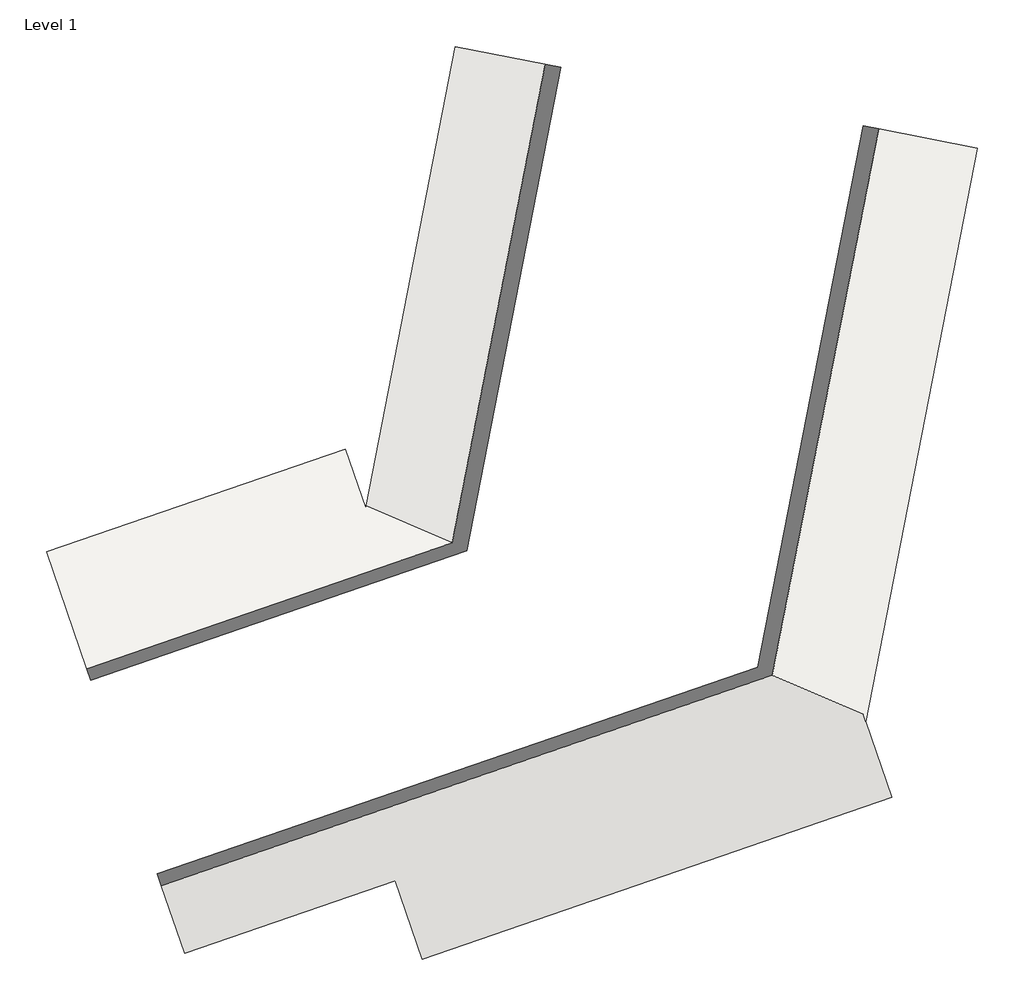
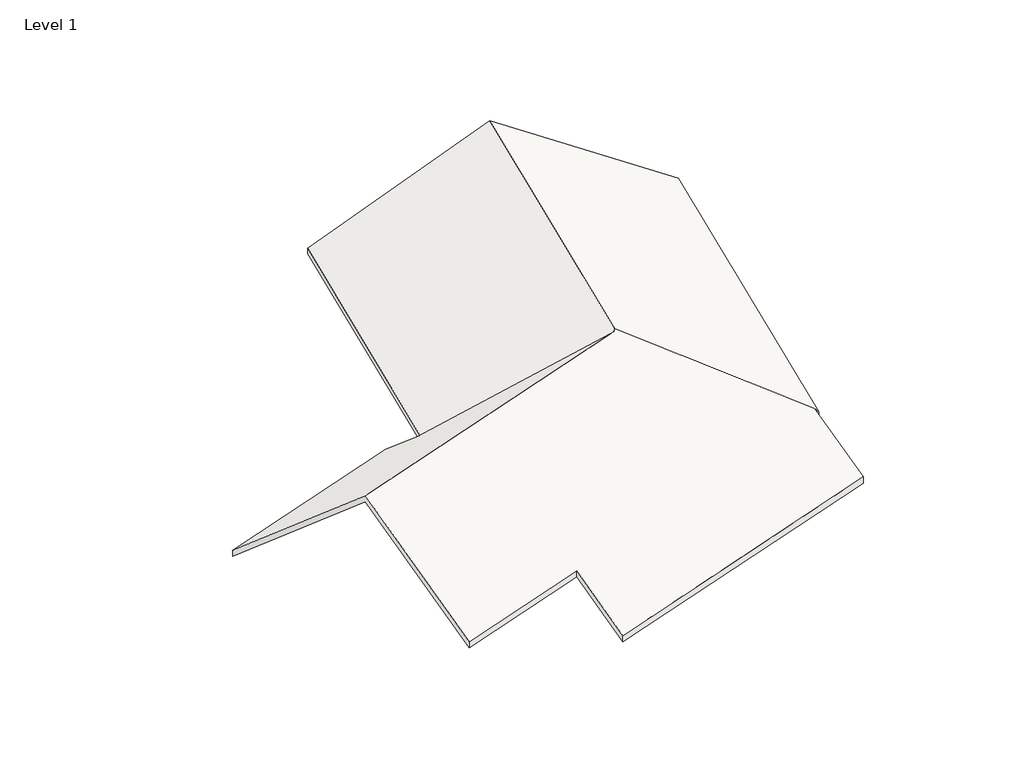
# One storey: 1 roof.
"""IFC4 building model written with IfcOpenShell, lengths in millimetres."""

from ifc_helpers import new_model, si_unit, origin, place, context, project, spatial, faceted_brep, element, save

model = new_model("IFC4")

# Units and contexts
model_context = context("Model", 3, world=origin())
ifc_project = project(units=[si_unit("LENGTHUNIT", "METRE", prefix="MILLI")], contexts=[model_context])

# Site, building, storey
site = spatial("IfcSite", under=ifc_project)
building = spatial("IfcBuilding", under=site)
storey = spatial("IfcBuildingStorey", under=building, Name="Level 1", Elevation=0.0)

# Roof
placement = place(None, origin())
element("IfcRoof", 1, ObjectType="Roof 1", at=placement, inside=storey, context=model_context, shape_type="Brep", body=[
    faceted_brep([(2592.0209206, -2992.1173137, -157.4405901), (1420.6467564, 409.8002757, 2861.5881928), (10750.9668053, 3622.4871093, 2861.5881928), (10870.2618046, 3733.3822483, 2916.9811545), (15690.2795253, 1662.3710339, -42.8788948), (15754.7007746, 1475.2781409, -208.9143186), (16255.6381685, 20.4503123, -1500.0), (7178.6598428, -3105.0039705, -1500.0), (6657.7507957, -1592.1742495, -157.4405901), (2592.0209206, -2992.1173137, 41.5034808), (6657.7507957, -1592.1742495, 41.5034808), (7178.6598428, -3105.0039705, -1301.0559291), (16255.6381685, 20.4503123, -1301.0559291), (15754.7007746, 1475.2781409, -9.9702478), (15703.8645939, 1622.9171297, 121.0518434), (10864.2310402, 3702.3566555, 3092.9575165), (10794.399596, 3637.4422185, 3060.5322637), (1420.6467564, 409.8002757, 3060.5322637), (15754.7007746, 1475.2781409, 75.976362), (5691.4961564, 6747.6071825, -801.0559291), (6086.3444355, 5600.8845154, 216.6020967), (6086.3444355, 5600.8845154, 17.6580258), (5691.4961564, 6747.6071825, -1000.0), (15754.7007746, 1475.2781409, -100.0), (12780.73848, 13561.9327013, 2916.9811545), (17910.2947844, 12564.8479611, -100.0), (17910.2947844, 12564.8479611, 75.976362), (12780.73848, 13561.9327013, 3092.9575165), (7821.2049911, 14525.9683541, 0.0), (6090.9810056, 5624.7376007, 0.0), (-77.637946, 4761.1350063, -1000.0), (7821.2049911, 14525.9683541, 175.976362), (6097.0117699, 5655.7631936, 175.976362), (-77.637946, 4761.1350063, -801.0559291)], [[[0, 1, 2, 3, 4, 5, 6, 7, 8]], [[9, 10, 11, 12, 13, 14, 15, 16, 17]], [[6, 12, 11, 7]], [[18, 14, 13]], [[19, 20, 21, 22]], [[10, 9, 0, 8]], [[11, 10, 8, 7]], [[23, 4, 3, 24, 25]], [[18, 26, 27, 15, 14]], [[25, 26, 18, 13, 23]], [[28, 24, 3, 2, 29]], [[1, 30, 22, 21, 29, 2]], [[31, 32, 16, 15, 27]], [[33, 17, 16, 32, 20, 19]], [[33, 19, 22, 30]], [[20, 32, 31, 28, 29, 21]], [[9, 17, 33, 30, 1, 0]], [[13, 12, 6, 5, 4, 23]], [[31, 27, 26, 25, 24, 28]]]),
])

save(model, "model.ifc")
